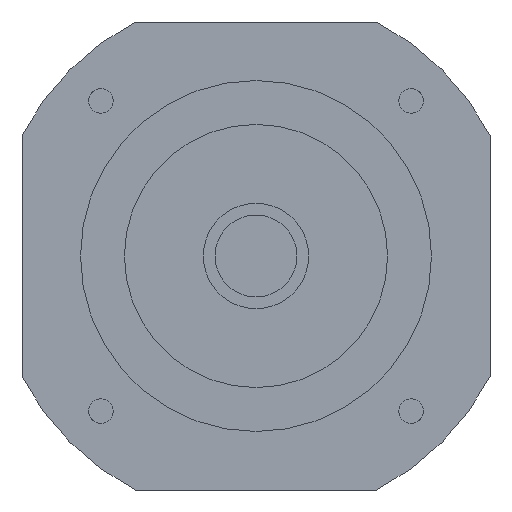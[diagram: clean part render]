
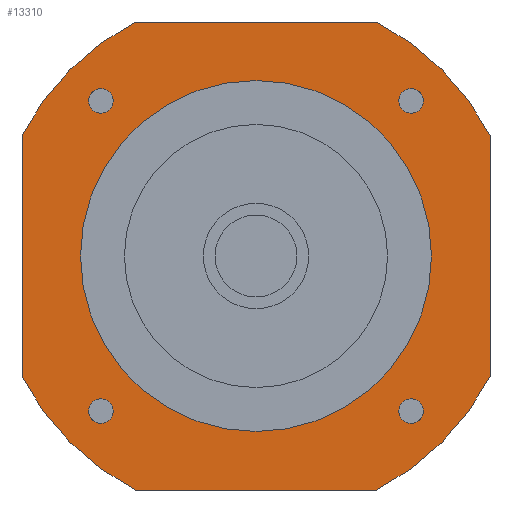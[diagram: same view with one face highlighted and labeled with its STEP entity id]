
A CAD part, left-side view. The second image highlights one B-rep face of the part: STEP entity #13310.
In plain terms, the highlighted planar face has unit normal (-1, 0, 0) as drawn and (0, 0, -1) by its records, which use the part's own axes.
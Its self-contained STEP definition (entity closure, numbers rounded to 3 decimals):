
#8640=CARTESIAN_POINT('',(-40.,-20.616,-42.2));
#8650=VERTEX_POINT('',#8640);
#8830=CARTESIAN_POINT('',(-20.616,-40.,-42.2));
#8840=VERTEX_POINT('',#8830);
#8870=CARTESIAN_POINT('',(0.,0.,
-42.2));
#8880=DIRECTION('',(0.,0.,1.));
#8890=DIRECTION('',(-1.,0.,0.));
#8900=AXIS2_PLACEMENT_3D('',#8870,#8880,#8890);
#8910=CIRCLE('',#8900,45.);
#8920=EDGE_CURVE('',#8650,#8840,#8910,.T.);
#9060=CARTESIAN_POINT('',(-20.616,40.,-42.2));
#9070=VERTEX_POINT('',#9060);
#9250=CARTESIAN_POINT('',(-40.,20.616,-42.2));
#9260=VERTEX_POINT('',#9250);
#9290=CARTESIAN_POINT('',(0.,0.,
-42.2));
#9300=DIRECTION('',(0.,0.,1.));
#9310=DIRECTION('',(-1.,0.,0.));
#9320=AXIS2_PLACEMENT_3D('',#9290,#9300,#9310);
#9330=CIRCLE('',#9320,45.);
#9340=EDGE_CURVE('',#9070,#9260,#9330,.T.);
#11850=CARTESIAN_POINT('',(40.,40.,-42.2));
#11860=DIRECTION('',(0.,0.,1.));
#11870=DIRECTION('',(-1.,0.,0.));
#11880=AXIS2_PLACEMENT_3D('',#11850,#11860,#11870);
#11890=PLANE('',#11880);
#11900=CARTESIAN_POINT('',(-26.517,26.517,-42.2));
#11910=DIRECTION('',(0.,0.,-1.));
#11920=DIRECTION('',(0.,-1.,0.));
#11930=AXIS2_PLACEMENT_3D('',#11900,#11910,#11920);
#11940=CIRCLE('',#11930,2.1);
#11950=CARTESIAN_POINT('',(-26.517,24.417,-42.2));
#11960=VERTEX_POINT('',#11950);
#11970=CARTESIAN_POINT('',(-28.617,26.517,-42.2));
#11980=VERTEX_POINT('',#11970);
#11990=EDGE_CURVE('',#11960,#11980,#11940,.T.);
#12000=ORIENTED_EDGE('',*,*,#11990,.F.);
#12010=CARTESIAN_POINT('',(-24.417,26.517,-42.2));
#12020=VERTEX_POINT('',#12010);
#12030=EDGE_CURVE('',#11980,#12020,#11940,.T.);
#12040=ORIENTED_EDGE('',*,*,#12030,.F.);
#12050=EDGE_CURVE('',#12020,#11960,#11940,.T.);
#12060=ORIENTED_EDGE('',*,*,#12050,.F.);
#12070=EDGE_LOOP('',(#12060,#12040,#12000));
#12080=FACE_BOUND('',#12070,.T.);
#12090=CARTESIAN_POINT('',(26.517,26.517,-42.2));
#12100=DIRECTION('',(0.,0.,-1.));
#12110=DIRECTION('',(0.,-1.,0.));
#12120=AXIS2_PLACEMENT_3D('',#12090,#12100,#12110);
#12130=CIRCLE('',#12120,2.1);
#12140=CARTESIAN_POINT('',(26.517,24.417,-42.2));
#12150=VERTEX_POINT('',#12140);
#12160=CARTESIAN_POINT('',(24.417,26.517,-42.2));
#12170=VERTEX_POINT('',#12160);
#12180=EDGE_CURVE('',#12150,#12170,#12130,.T.);
#12190=ORIENTED_EDGE('',*,*,#12180,.F.);
#12200=CARTESIAN_POINT('',(28.617,26.517,-42.2));
#12210=VERTEX_POINT('',#12200);
#12220=EDGE_CURVE('',#12170,#12210,#12130,.T.);
#12230=ORIENTED_EDGE('',*,*,#12220,.F.);
#12240=EDGE_CURVE('',#12210,#12150,#12130,.T.);
#12250=ORIENTED_EDGE('',*,*,#12240,.F.);
#12260=EDGE_LOOP('',(#12250,#12230,#12190));
#12270=FACE_BOUND('',#12260,.T.);
#12280=CARTESIAN_POINT('',(26.517,-26.517,-42.2));
#12290=DIRECTION('',(0.,0.,-1.));
#12300=DIRECTION('',(0.,-1.,0.));
#12310=AXIS2_PLACEMENT_3D('',#12280,#12290,#12300);
#12320=CIRCLE('',#12310,2.1);
#12330=CARTESIAN_POINT('',(26.517,-28.617,-42.2));
#12340=VERTEX_POINT('',#12330);
#12350=CARTESIAN_POINT('',(24.417,-26.517,-42.2));
#12360=VERTEX_POINT('',#12350);
#12370=EDGE_CURVE('',#12340,#12360,#12320,.T.);
#12380=ORIENTED_EDGE('',*,*,#12370,.F.);
#12390=CARTESIAN_POINT('',(28.617,-26.517,-42.2));
#12400=VERTEX_POINT('',#12390);
#12410=EDGE_CURVE('',#12360,#12400,#12320,.T.);
#12420=ORIENTED_EDGE('',*,*,#12410,.F.);
#12430=EDGE_CURVE('',#12400,#12340,#12320,.T.);
#12440=ORIENTED_EDGE('',*,*,#12430,.F.);
#12450=EDGE_LOOP('',(#12440,#12420,#12380));
#12460=FACE_BOUND('',#12450,.T.);
#12470=CARTESIAN_POINT('',(0.,0.,
-42.2));
#12480=DIRECTION('',(0.,0.,1.));
#12490=DIRECTION('',(1.,0.,0.));
#12500=AXIS2_PLACEMENT_3D('',#12470,#12480,#12490);
#12510=CIRCLE('',#12500,30.);
#12520=CARTESIAN_POINT('',(30.,0.,-42.2));
#12530=VERTEX_POINT('',#12520);
#12540=CARTESIAN_POINT('',(-30.,0.,-42.2));
#12550=VERTEX_POINT('',#12540);
#12560=EDGE_CURVE('',#12530,#12550,#12510,.T.);
#12570=ORIENTED_EDGE('',*,*,#12560,.T.);
#12580=EDGE_CURVE('',#12550,#12530,#12510,.T.);
#12590=ORIENTED_EDGE('',*,*,#12580,.T.);
#12600=EDGE_LOOP('',(#12590,#12570));
#12610=FACE_BOUND('',#12600,.T.);
#12620=CARTESIAN_POINT('',(-26.517,-26.517,-42.2));
#12630=DIRECTION('',(0.,0.,-1.));
#12640=DIRECTION('',(0.,-1.,0.));
#12650=AXIS2_PLACEMENT_3D('',#12620,#12630,#12640);
#12660=CIRCLE('',#12650,2.1);
#12670=CARTESIAN_POINT('',(-26.517,-28.617,-42.2));
#12680=VERTEX_POINT('',#12670);
#12690=CARTESIAN_POINT('',(-28.617,-26.517,-42.2));
#12700=VERTEX_POINT('',#12690);
#12710=EDGE_CURVE('',#12680,#12700,#12660,.T.);
#12720=ORIENTED_EDGE('',*,*,#12710,.F.);
#12730=CARTESIAN_POINT('',(-24.417,-26.517,-42.2));
#12740=VERTEX_POINT('',#12730);
#12750=EDGE_CURVE('',#12700,#12740,#12660,.T.);
#12760=ORIENTED_EDGE('',*,*,#12750,.F.);
#12770=EDGE_CURVE('',#12740,#12680,#12660,.T.);
#12780=ORIENTED_EDGE('',*,*,#12770,.F.);
#12790=EDGE_LOOP('',(#12780,#12760,#12720));
#12800=FACE_BOUND('',#12790,.T.);
#12810=ORIENTED_EDGE('',*,*,#8920,.F.);
#12820=CARTESIAN_POINT('',(-40.,-40.,-42.2));
#12830=DIRECTION('',(1.,0.,0.));
#12840=VECTOR('',#12830,1000.);
#12850=LINE('',#12820,#12840);
#12860=CARTESIAN_POINT('',(20.616,-40.,-42.2));
#12870=VERTEX_POINT('',#12860);
#12880=EDGE_CURVE('',#8840,#12870,#12850,.T.);
#12890=ORIENTED_EDGE('',*,*,#12880,.F.);
#12900=CARTESIAN_POINT('',(0.,0.,
-42.2));
#12910=DIRECTION('',(0.,0.,1.));
#12920=DIRECTION('',(-1.,0.,0.));
#12930=AXIS2_PLACEMENT_3D('',#12900,#12910,#12920);
#12940=CIRCLE('',#12930,45.);
#12950=CARTESIAN_POINT('',(40.,-20.616,-42.2));
#12960=VERTEX_POINT('',#12950);
#12970=EDGE_CURVE('',#12870,#12960,#12940,.T.);
#12980=ORIENTED_EDGE('',*,*,#12970,.F.);
#12990=CARTESIAN_POINT('',(40.,-40.,-42.2));
#13000=DIRECTION('',(0.,1.,0.));
#13010=VECTOR('',#13000,1000.);
#13020=LINE('',#12990,#13010);
#13030=CARTESIAN_POINT('',(40.,20.616,-42.2));
#13040=VERTEX_POINT('',#13030);
#13050=EDGE_CURVE('',#12960,#13040,#13020,.T.);
#13060=ORIENTED_EDGE('',*,*,#13050,.F.);
#13070=CARTESIAN_POINT('',(0.,0.,
-42.2));
#13080=DIRECTION('',(0.,0.,1.));
#13090=DIRECTION('',(-1.,0.,0.));
#13100=AXIS2_PLACEMENT_3D('',#13070,#13080,#13090);
#13110=CIRCLE('',#13100,45.);
#13120=CARTESIAN_POINT('',(20.616,40.,-42.2));
#13130=VERTEX_POINT('',#13120);
#13140=EDGE_CURVE('',#13040,#13130,#13110,.T.);
#13150=ORIENTED_EDGE('',*,*,#13140,.F.);
#13160=CARTESIAN_POINT('',(40.,40.,-42.2));
#13170=DIRECTION('',(-1.,0.,0.));
#13180=VECTOR('',#13170,1000.);
#13190=LINE('',#13160,#13180);
#13200=EDGE_CURVE('',#13130,#9070,#13190,.T.);
#13210=ORIENTED_EDGE('',*,*,#13200,.F.);
#13220=ORIENTED_EDGE('',*,*,#9340,.F.);
#13230=CARTESIAN_POINT('',(-40.,40.,-42.2));
#13240=DIRECTION('',(0.,-1.,0.));
#13250=VECTOR('',#13240,1000.);
#13260=LINE('',#13230,#13250);
#13270=EDGE_CURVE('',#9260,#8650,#13260,.T.);
#13280=ORIENTED_EDGE('',*,*,#13270,.F.);
#13290=EDGE_LOOP('',(#13280,#13220,#13210,#13150,#13060,#12980,#12890,
#12810));
#13300=FACE_OUTER_BOUND('',#13290,.T.);
#13310=ADVANCED_FACE('',(#12080,#12270,#12460,#12610,#12800,#13300),
#11890,.F.);
